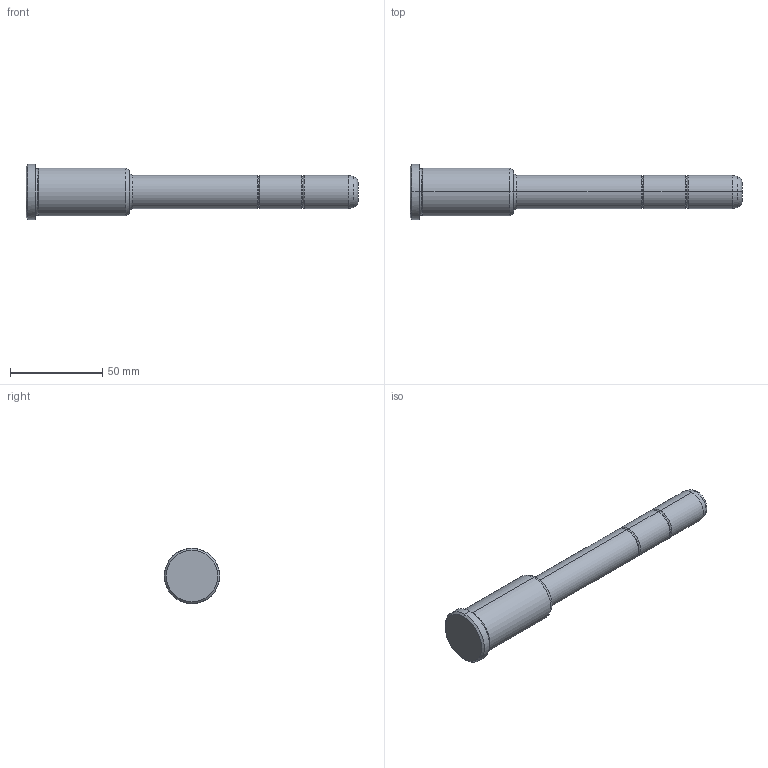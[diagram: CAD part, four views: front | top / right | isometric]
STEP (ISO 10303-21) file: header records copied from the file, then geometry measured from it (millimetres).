
FILE_DESCRIPTION(('CATIA V5 STEP Exchange'),'2;1');
FILE_NAME('C:\Users\Utente\Desktop\IO LAVORO\3D X SITO CF\X SITO\PLASTICA\351\351-18X56X180.stp','2021-08-27T11:24:17+00:00',('none'),('none'),'CATIA Version 5 Release 20 GA (IN-10)','CATIA V5 STEP AP203','none');
FILE_SCHEMA(('CONFIG_CONTROL_DESIGN'));
Length unit declared in the file: millimetre
Products named in the file (1): 351-18X56X180
Bounding box: 180 x 30 x 30 mm (x, y, z)
Volume: 61733.7 mm3; surface area: 12832.4 mm2
Topology: 1 solids, 1 shells, 36 faces, 102 edges, 70 vertices
Faces by surface type: torus 16, cylinder 10, cone 6, plane 4
Entity records: 1292 total; most frequent: CARTESIAN_POINT 321, ORIENTED_EDGE 204, DIRECTION 166, AXIS2_PLACEMENT_3D 115, EDGE_CURVE 102, CIRCLE 78, VERTEX_POINT 70, EDGE_LOOP 38
